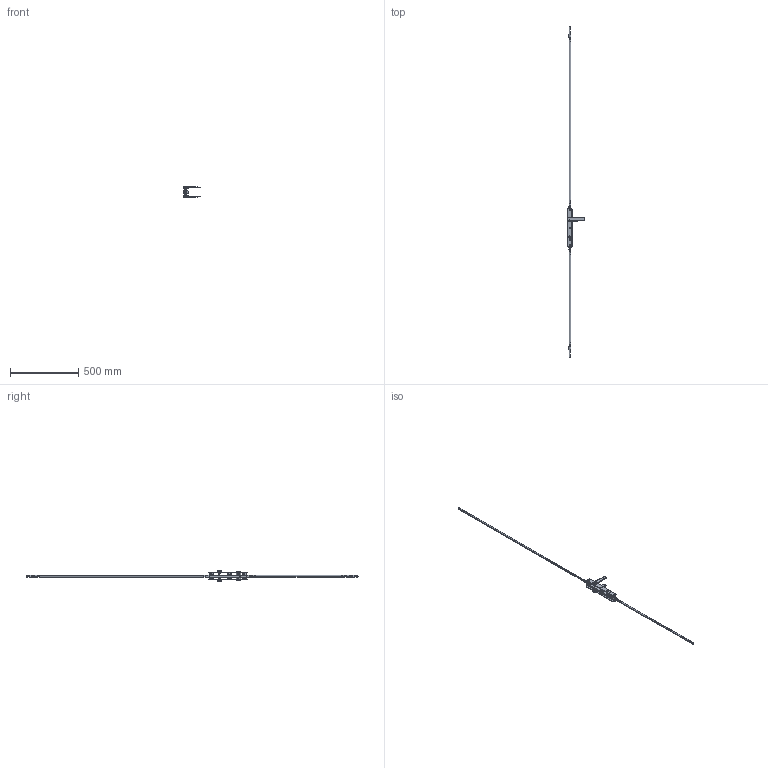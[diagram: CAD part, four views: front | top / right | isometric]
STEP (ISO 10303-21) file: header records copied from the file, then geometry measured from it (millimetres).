
FILE_DESCRIPTION (( 'STEP AP214' ), '1' );
FILE_NAME ('TPL-H-APC-106-B 17Oct2024.STEP', '2024-10-17T04:40:02', ( '' ), ( '' ), 'SwSTEP 2.0', 'SolidWorks 2023', '' );
FILE_SCHEMA (( 'AUTOMOTIVE_DESIGN' ));
Length unit declared in the file: millimetre
Products named in the file (23): Copy of TPLGen2 lock body keyed^Copy (2) of TPLGen2 lock body keyed assembly_TPL-H-APC-608 16Oct2024_Right; Copy (2) of TPGen2 handle keyed internal zinc - simplified^TPL-H-APC-608 16Oct2024_Right; Copy of LKC-512 Escutcheon plate keyed internal 285mm long zinc - simplified^Copy (2) of TPGen2 handle keyed internal zinc - simplified_TPL-H-APC-608 16Oct2024; Copy of LKC-585 Rotator body zinc^Copy of TPGen2 handle keyed external zinc - simplified_TPL-H-APC-608 16Oct2024; Copy of TPL-021 Lock cylinder double key C4 5 pin 62 (30-32)mm^TPL-H-APC-608 16Oct2024_Left; Copy of LKC-505 Swing handle zinc - simplified^Copy (2) of TPGen2 handle keyed internal zinc - simplified_TPL-H-APC-608 16Oct2024; Copy of LKC-585 Rotator body zinc^Copy (2) of TPGen2 handle keyed internal zinc - simplified_TPL-H-APC-608 16Oct2024; Copy (2) of TPLGen2 lock body keyed assembly^TPL-H-APC-608 16Oct2024_Bolts retracted - right; TPL-H-APC-106-B 17Oct2024; Copy of LKC-584 Pivot body zinc - simplified^Copy (2) of TPGen2 handle keyed internal zinc - simplified_TPL-H-APC-608 16Oct2024; Copy of LKC-532 Rod connector - simplified^TPL-H-APC-608 16Oct2024; Copy of LKC-584 Pivot body zinc - simplified^Copy of TPGen2 handle keyed external zinc - simplified_TPL-H-APC-608 16Oct2024; Copy of LKC-586 Spindle square 8mm with M4 hole^Copy (2) of TPGen2 handle keyed internal zinc - simplified_TPL-H-APC-608 16Oct2024_46mm; Copy of LKC-576 Bolt adaptor - simplified^TPL-H-APC-608 16Oct2024; Copy of TPL-H-APC-516 04Oct2024^TPL-H-APC-608 16Oct2024; Copy (2) of LKC-540 Transmission rod aluminium system TPLGen2^TPL-H-APC-608 16Oct2024_2885mm; Copy of LKC-514 Escutcheon plate keyed external 285mm long zinc - simplified^Copy of TPGen2 handle keyed external zinc - simplified_TPL-H-APC-608 16Oct2024; Copy of LKC-505 Swing handle zinc - simplified^Copy of TPGen2 handle keyed external zinc - simplified_TPL-H-APC-608 16Oct2024; Copy of TPL-H-APC-517 04Oct2024^TPL-H-APC-608 16Oct2024; Copy of TPGen2 handle keyed external zinc - simplified^TPL-H-APC-608 16Oct2024_Left; Copy of TPLGen2 push rod - simplified^Copy (2) of TPLGen2 lock body keyed assembly_TPL-H-APC-608 16Oct2024_Female thread M10; Copy of LKC-540 Transmission rod aluminium system TPLGen2^TPL-H-APC-608 16Oct2024_2885mm; Copy (2) of TPL-H-APC-515 04Oct2024^TPL-H-APC-608 16Oct2024
Assembly tree (30 placements, depth 3):
  TPL-H-APC-106-B 17Oct2024
    Copy (2) of TPLGen2 lock body keyed assembly^TPL-H-APC-608 16Oct2024_Bolts retracted - right
      Copy of TPLGen2 lock body keyed^Copy (2) of TPLGen2 lock body keyed assembly_TPL-H-APC-608 16Oct2024_Right
      Copy of TPLGen2 push rod - simplified^Copy (2) of TPLGen2 lock body keyed assembly_TPL-H-APC-608 16Oct2024_Female thread M10  x2
    Copy (2) of TPGen2 handle keyed internal zinc - simplified^TPL-H-APC-608 16Oct2024_Right
      Copy of LKC-512 Escutcheon plate keyed internal 285mm long zinc - simplified^Copy (2) of TPGen2 handle keyed internal zinc - simplified_TPL-H-APC-608 16Oct2024
      Copy of LKC-505 Swing handle zinc - simplified^Copy (2) of TPGen2 handle keyed internal zinc - simplified_TPL-H-APC-608 16Oct2024
      Copy of LKC-585 Rotator body zinc^Copy (2) of TPGen2 handle keyed internal zinc - simplified_TPL-H-APC-608 16Oct2024
      Copy of LKC-586 Spindle square 8mm with M4 hole^Copy (2) of TPGen2 handle keyed internal zinc - simplified_TPL-H-APC-608 16Oct2024_46mm
      Copy of LKC-584 Pivot body zinc - simplified^Copy (2) of TPGen2 handle keyed internal zinc - simplified_TPL-H-APC-608 16Oct2024
    Copy of TPGen2 handle keyed external zinc - simplified^TPL-H-APC-608 16Oct2024_Left
      Copy of LKC-514 Escutcheon plate keyed external 285mm long zinc - simplified^Copy of TPGen2 handle keyed external zinc - simplified_TPL-H-APC-608 16Oct2024
      Copy of LKC-505 Swing handle zinc - simplified^Copy of TPGen2 handle keyed external zinc - simplified_TPL-H-APC-608 16Oct2024
      Copy of LKC-585 Rotator body zinc^Copy of TPGen2 handle keyed external zinc - simplified_TPL-H-APC-608 16Oct2024
      Copy of LKC-584 Pivot body zinc - simplified^Copy of TPGen2 handle keyed external zinc - simplified_TPL-H-APC-608 16Oct2024
    Copy of TPL-021 Lock cylinder double key C4 5 pin 62 (30-32)mm^TPL-H-APC-608 16Oct2024_Left
    Copy of LKC-532 Rod connector - simplified^TPL-H-APC-608 16Oct2024  x2
    Copy of LKC-540 Transmission rod aluminium system TPLGen2^TPL-H-APC-608 16Oct2024_2885mm
    Copy (2) of LKC-540 Transmission rod aluminium system TPLGen2^TPL-H-APC-608 16Oct2024_2885mm
    Copy of LKC-576 Bolt adaptor - simplified^TPL-H-APC-608 16Oct2024  x2
    Copy of TPL-H-APC-517 04Oct2024^TPL-H-APC-608 16Oct2024  x2
    Copy of TPL-H-APC-516 04Oct2024^TPL-H-APC-608 16Oct2024  x3
    Copy (2) of TPL-H-APC-515 04Oct2024^TPL-H-APC-608 16Oct2024  x3
Bounding box: 125.62 x 2440 x 76.92 mm (x, y, z)
Volume: 414247.4 mm3; surface area: 271343.7 mm2
Topology: 27 solids, 27 shells, 2257 faces, 5470 edges, 3296 vertices
Faces by surface type: cylinder 703, plane 632, bspline 448, torus 228, cone 184, sphere 62
Entity records: 57799 total; most frequent: CARTESIAN_POINT 24637, ORIENTED_EDGE 7152, DIRECTION 6382, EDGE_CURVE 3576, AXIS2_PLACEMENT_3D 2558, VERTEX_POINT 2161, EDGE_LOOP 1655, FACE_OUTER_BOUND 1513
